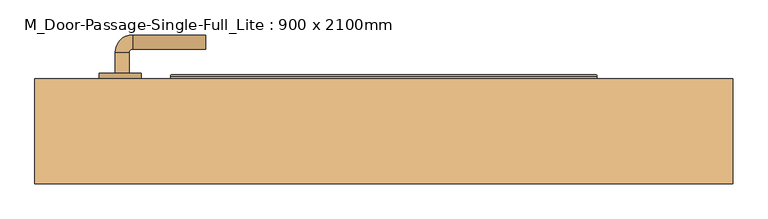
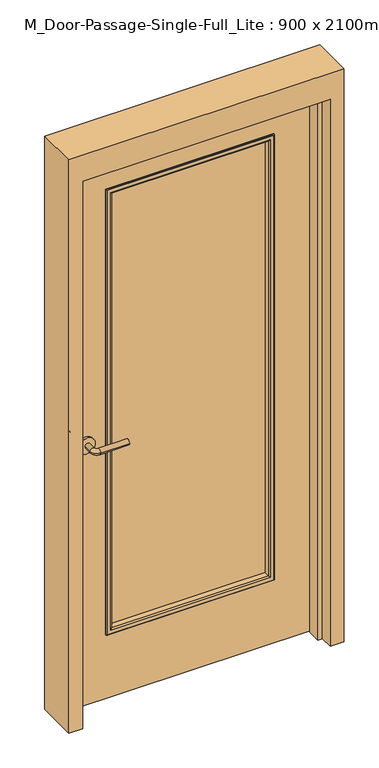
"""IFC4 building model written with IfcOpenShell, lengths in millimetres: door geometry, M_Door-Passage-Single-Full_Lite : 900 x 2100mm."""

from ifc_helpers import new_model, si_unit, point, frame, frame_2d, origin, place, context, project, spatial, polyline, circle_curve, ellipse_curve, trimmed, segment, composite_curve, outline, extrude, faceted_brep, source, transform, mapped, element, save
from ifc_brep_helpers import plane_surface, cylinder_surface, revolved_surface, advanced_brep


def m_door_passage_single_full_lite_900_x_2100mm_2f8a5465(model_context):
    return source(origin(), model_context, "Body", "SolidModel", [
        advanced_brep(
        [(-384.990625, -26.65, 1000.0), (-364.990625, -26.65, 1000.0), (-364.990625, -56.65, 1000.0), (-384.990625, -56.65, 1000.0), (-359.990625, -61.65, 1000.0), (-359.990625, -81.65, 1000.0), (-254.990625, -81.65, 1000.0), (-254.990625, -61.65, 1000.0)],
        [
            (0, 1, circle_curve(frame((-374.990625, -26.65, 1000.0), z_axis=(0.0, 1.0, 0.0), x_axis=(1.0, 0.0, 0.0)), 10.0)),
            (1, 0, circle_curve(frame((-374.990625, -26.65, 1000.0), z_axis=(0.0, 1.0, 0.0), x_axis=(1.0, 0.0, 0.0)), 10.0)),
            (1, 2),
            (2, 3, circle_curve(frame((-374.990625, -56.65, 1000.0), z_axis=(0.0, 1.0, 0.0), x_axis=(1.0, 0.0, 0.0)), 10.0)),
            (3, 0),
            (3, 2, circle_curve(frame((-374.990625, -56.65, 1000.0), z_axis=(0.0, 1.0, 0.0), x_axis=(1.0, 0.0, 0.0)), 10.0)),
            (4, 5, circle_curve(frame((-359.990625, -71.65, 1000.0), z_axis=(-1.0, 0.0, 0.0), x_axis=(0.0, 1.0, 0.0)), 10.0)),
            (5, 3, circle_curve(frame((-359.990625, -56.65, 1000.0), z_axis=(0.0, 0.0, -1.0), x_axis=(-1.0, 0.0, 0.0)), 25.0)),
            (2, 4, circle_curve(frame((-359.990625, -56.65, 1000.0), z_axis=(0.0, 0.0, 1.0), x_axis=(-1.0, 0.0, 0.0)), 5.0)),
            (5, 4, circle_curve(frame((-359.990625, -71.65, 1000.0), z_axis=(-1.0, 0.0, 0.0), x_axis=(0.0, 1.0, 0.0)), 10.0)),
            (6, 7, circle_curve(frame((-254.990625, -71.65, 1000.0), z_axis=(1.0, 0.0, 0.0), x_axis=(0.0, 1.0, 0.0)), 10.0)),
            (7, 6, circle_curve(frame((-254.990625, -71.65, 1000.0), z_axis=(1.0, 0.0, 0.0), x_axis=(0.0, 1.0, 0.0)), 10.0)),
            (4, 7),
            (6, 5),
        ],
        [
            plane_surface(frame((-374.990625, -26.65, 1000.0), z_axis=(0.0, 1.0, 0.0), x_axis=(0.0, 0.0, 1.0))),
            cylinder_surface(frame((-374.990625, -26.65, 1000.0), z_axis=(0.0, 1.0, 0.0), x_axis=(1.0, 0.0, 0.0)), 10.0),
            revolved_surface(trimmed(ellipse_curve(frame((-374.990625, -56.65, 1000.0), z_axis=(0.0, -1.0, 0.0), x_axis=(1.0, 0.0, 0.0)), 10.0, 10.0), [point((-384.990625, -56.65, 1000.0))], [point((-364.990625, -56.65, 1000.0))], True, "CARTESIAN"), (-359.990625, -56.65, 1000.0), (0.0, 0.0, -1.0)),
            revolved_surface(trimmed(ellipse_curve(frame((-374.990625, -56.65, 1000.0), z_axis=(0.0, -1.0, 0.0), x_axis=(1.0, 0.0, 0.0)), 10.0, 10.0), [point((-364.990625, -56.65, 1000.0))], [point((-384.990625, -56.65, 1000.0))], True, "CARTESIAN"), (-359.990625, -56.65, 1000.0), (0.0, 0.0, -1.0)),
            plane_surface(frame((-254.990625, -71.65, 1000.0), z_axis=(1.0, 0.0, 0.0), x_axis=(0.0, 0.0, 1.0))),
            cylinder_surface(frame((-359.990625, -71.65, 1000.0), z_axis=(-1.0, 0.0, 0.0), x_axis=(0.0, 1.0, 0.0)), 10.0),
        ],
        [
            (0, [[1, 2]]),
            (1, [[3, 4, 5, -2]]),
            (1, [[-5, 6, -3, -1]]),
            (2, [[7, 8, -4, 9]]),
            (3, [[10, -9, -6, -8]]),
            (4, [[11, 12]]),
            (5, [[13, -11, 14, -7]]),
            (5, [[-14, -12, -13, -10]]),
        ],
    ),
        extrude(outline(composite_curve([segment(trimmed(circle_curve(frame_2d((1000.0, -377.490625)), 30.0), [point((1000.0, -407.490625))], [point((1000.0, -347.490625))], False, "CARTESIAN"), True, "CONTINUOUS"), segment(trimmed(circle_curve(frame_2d((1000.0, -377.490625)), 30.0), [point((1000.0, -347.490625))], [point((1000.0, -407.490625))], False, "CARTESIAN"), True, "CONTINUOUS")], self_intersect=False)), frame((0.0, -26.65, 0.0), z_axis=(0.0, 1.0, 0.0), x_axis=(0.0, 0.0, 1.0)), (0.0, 0.0, 1.0), 8.0),
        advanced_brep(
        [(-384.990625, 34.35, 1000.0), (-364.990625, 34.35, 1000.0), (-384.990625, 64.35, 1000.0), (-364.990625, 64.35, 1000.0), (-359.990625, 69.35, 1000.0), (-359.990625, 89.35, 1000.0), (-254.990625, 89.35, 1000.0), (-254.990625, 69.35, 1000.0)],
        [
            (0, 1, circle_curve(frame((-374.990625, 34.35, 1000.0), z_axis=(0.0, -1.0, 0.0), x_axis=(1.0, 0.0, 0.0)), 10.0)),
            (1, 0, circle_curve(frame((-374.990625, 34.35, 1000.0), z_axis=(0.0, -1.0, 0.0), x_axis=(1.0, 0.0, 0.0)), 10.0)),
            (0, 2),
            (2, 3, circle_curve(frame((-374.990625, 64.35, 1000.0), z_axis=(0.0, -1.0, 0.0), x_axis=(1.0, 0.0, 0.0)), 10.0)),
            (3, 1),
            (3, 2, circle_curve(frame((-374.990625, 64.35, 1000.0), z_axis=(0.0, -1.0, 0.0), x_axis=(1.0, 0.0, 0.0)), 10.0)),
            (4, 3, circle_curve(frame((-359.990625, 64.35, 1000.0), z_axis=(0.0, 0.0, 1.0), x_axis=(-1.0, 0.0, 0.0)), 5.0)),
            (2, 5, circle_curve(frame((-359.990625, 64.35, 1000.0), z_axis=(0.0, 0.0, -1.0), x_axis=(-1.0, 0.0, 0.0)), 25.0)),
            (5, 4, circle_curve(frame((-359.990625, 79.35, 1000.0), z_axis=(-1.0, 0.0, 0.0), x_axis=(0.0, -1.0, 0.0)), 10.0)),
            (4, 5, circle_curve(frame((-359.990625, 79.35, 1000.0), z_axis=(-1.0, 0.0, 0.0), x_axis=(0.0, -1.0, 0.0)), 10.0)),
            (6, 7, circle_curve(frame((-254.990625, 79.35, 1000.0), z_axis=(1.0, 0.0, 0.0), x_axis=(0.0, -1.0, 0.0)), 10.0)),
            (7, 6, circle_curve(frame((-254.990625, 79.35, 1000.0), z_axis=(1.0, 0.0, 0.0), x_axis=(0.0, -1.0, 0.0)), 10.0)),
            (5, 6),
            (7, 4),
        ],
        [
            plane_surface(frame((-374.990625, 34.35, 1000.0), z_axis=(0.0, -1.0, 0.0), x_axis=(0.0, 0.0, 1.0))),
            cylinder_surface(frame((-374.990625, 34.35, 1000.0), z_axis=(0.0, -1.0, 0.0), x_axis=(1.0, 0.0, 0.0)), 10.0),
            revolved_surface(trimmed(ellipse_curve(frame((-374.990625, 64.35, 1000.0), z_axis=(0.0, -1.0, 0.0), x_axis=(1.0, 0.0, 0.0)), 10.0, 10.0), [point((-384.990625, 64.35, 1000.0))], [point((-364.990625, 64.35, 1000.0))], True, "CARTESIAN"), (-359.990625, 64.35, 1000.0), (0.0, 0.0, -1.0)),
            revolved_surface(trimmed(ellipse_curve(frame((-374.990625, 64.35, 1000.0), z_axis=(0.0, -1.0, 0.0), x_axis=(1.0, 0.0, 0.0)), 10.0, 10.0), [point((-364.990625, 64.35, 1000.0))], [point((-384.990625, 64.35, 1000.0))], True, "CARTESIAN"), (-359.990625, 64.35, 1000.0), (0.0, 0.0, -1.0)),
            plane_surface(frame((-254.990625, 79.35, 1000.0), z_axis=(1.0, 0.0, 0.0), x_axis=(0.0, 0.0, 1.0))),
            cylinder_surface(frame((-359.990625, 79.35, 1000.0), z_axis=(-1.0, 0.0, 0.0), x_axis=(0.0, -1.0, 0.0)), 10.0),
        ],
        [
            (0, [[1, 2]]),
            (1, [[-1, 3, 4, 5]]),
            (1, [[-2, -5, 6, -3]]),
            (2, [[7, -4, 8, 9]]),
            (3, [[-8, -6, -7, 10]]),
            (4, [[11, 12]]),
            (5, [[-9, 13, -12, 14]]),
            (5, [[-10, -14, -11, -13]]),
        ],
    ),
        extrude(outline(composite_curve([segment(trimmed(circle_curve(frame_2d((1000.0, -377.490625)), 30.0), [point((1000.0, -407.490625))], [point((1000.0, -347.490625))], False, "CARTESIAN"), True, "CONTINUOUS"), segment(trimmed(circle_curve(frame_2d((1000.0, -377.490625)), 30.0), [point((1000.0, -347.490625))], [point((1000.0, -407.490625))], False, "CARTESIAN"), True, "CONTINUOUS")], self_intersect=False)), frame((0.0, 26.35, 0.0), z_axis=(0.0, 1.0, 0.0), x_axis=(0.0, 0.0, 1.0)), (0.0, 0.0, 1.0), 8.0),
        extrude(outline(polyline([(297.6, 1.35), (-297.6, 1.35), (-297.6, 6.35), (297.6, 6.35), (297.6, 1.35)])), frame((0.0, 0.0, 254.0), z_axis=(0.0, 0.0, 1.0), x_axis=(1.0, 0.0, 0.0)), (0.0, 0.0, 1.0), 1693.6),
        faceted_brep([(450.0, -23.4125, 0.0), (450.0, 26.35, 0.0), (500.0, 26.35, 0.0), (500.0, -123.65, 0.0), (450.0, -123.65, 0.0), (450.0, -74.4375, 0.0), (434.125, -74.4375, 0.0), (434.125, -23.4125, 0.0), (450.0, -23.4125, 2100.0), (450.0, 26.35, 2100.0), (-450.0, 26.35, 2100.0), (-450.0, 26.35, 0.0), (-500.0, 26.35, 0.0), (-500.0, 26.35, 2200.0), (500.0, 26.35, 2200.0), (500.0, -123.65, 2200.0), (-500.0, -123.65, 2200.0), (-500.0, -123.65, 0.0), (-450.0, -123.65, 0.0), (-450.0, -123.65, 2100.0), (450.0, -123.65, 2100.0), (450.0, -74.4375, 2100.0), (-450.0, -74.4375, 2100.0), (-450.0, -74.4375, 0.0), (-434.125, -74.4375, 0.0), (-434.125, -74.4375, 2084.125), (434.125, -74.4375, 2084.125), (434.125, -23.4125, 2084.125), (-434.125, -23.4125, 2084.125), (-434.125, -23.4125, 0.0), (-450.0, -23.4125, 0.0), (-450.0, -23.4125, 2100.0)], [[[0, 1, 2, 3, 4, 5, 6, 7]], [[1, 0, 8, 9]], [[2, 1, 9, 10, 11, 12, 13, 14]], [[3, 2, 14, 15]], [[4, 3, 15, 16, 17, 18, 19, 20]], [[5, 4, 20, 21]], [[6, 5, 21, 22, 23, 24, 25, 26]], [[7, 6, 26, 27]], [[0, 7, 27, 28, 29, 30, 31, 8]], [[9, 8, 31, 10]], [[20, 19, 22, 21]], [[26, 25, 28, 27]], [[12, 11, 30, 29, 24, 23, 18, 17]], [[11, 10, 31, 30]], [[13, 12, 17, 16]], [[19, 18, 23, 22]], [[25, 24, 29, 28]], [[15, 14, 13, 16]]]),
        extrude(outline(polyline([(2100.0, -450.0), (0.0, -450.0), (0.0, 450.0), (2100.0, 450.0), (2100.0, -450.0)]), holes=[polyline([(1947.6, -297.6), (1947.6, 297.6), (254.0, 297.6), (254.0, -297.6), (1947.6, -297.6)])]), frame((0.0, -18.65, 0.0), z_axis=(0.0, 1.0, 0.0), x_axis=(0.0, 0.0, 1.0)), (0.0, 0.0, 1.0), 45.0),
        advanced_brep(
        [(-297.6, 6.35, 1947.6), (-297.6, 26.35, 1947.6), (-297.6, 26.35, 254.0), (-297.6, 6.35, 254.0), (-285.6, 27.35, 1935.6), (-285.6, 6.35, 1935.6), (-285.6, 6.35, 266.0), (-285.6, 27.35, 266.0), (-290.6, 32.35, 1940.6), (-290.6, 32.35, 261.0), (-305.6, 30.35, 1955.6), (-303.6, 32.35, 1953.6), (-303.6, 32.35, 248.0), (-305.6, 30.35, 246.0), (-305.6, 26.35, 1955.6), (-305.6, 26.35, 246.0), (297.6, 26.35, 254.0), (297.6, 6.35, 254.0), (285.6, 6.35, 266.0), (285.6, 27.35, 266.0), (290.6, 32.35, 261.0), (303.6, 32.35, 248.0), (305.6, 30.35, 246.0), (305.6, 26.35, 246.0), (297.6, 26.35, 1947.6), (297.6, 6.35, 1947.6), (285.6, 6.35, 1935.6), (285.6, 27.35, 1935.6), (290.6, 32.35, 1940.6), (303.6, 32.35, 1953.6), (305.6, 30.35, 1955.6), (305.6, 26.35, 1955.6)],
        [
            (0, 1),
            (1, 2),
            (2, 3),
            (3, 0),
            (4, 5),
            (5, 6),
            (6, 7),
            (7, 4),
            (8, 4, ellipse_curve(frame((-290.6, 27.35, 1940.6), z_axis=(-0.7071067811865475, 0.0, -0.7071067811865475), x_axis=(-0.7071067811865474, 0.0, 0.7071067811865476)), 7.0710678, 5.0)),
            (7, 9, ellipse_curve(frame((-290.6, 27.35, 261.0), z_axis=(-0.7071067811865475, 0.0, 0.7071067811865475), x_axis=(0.7071067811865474, 0.0, 0.7071067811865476)), 7.0710678, 5.0)),
            (9, 8),
            (10, 11, ellipse_curve(frame((-303.6, 30.35, 1953.6), z_axis=(-0.7071067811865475, 0.0, -0.7071067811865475), x_axis=(-0.7071067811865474, 0.0, 0.7071067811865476)), 2.8284271, 2.0)),
            (11, 12),
            (12, 13, ellipse_curve(frame((-303.6, 30.35, 248.0), z_axis=(-0.7071067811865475, 0.0, 0.7071067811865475), x_axis=(0.7071067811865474, 0.0, 0.7071067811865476)), 2.8284271, 2.0)),
            (13, 10),
            (14, 10),
            (13, 15),
            (15, 14),
            (2, 16),
            (16, 17),
            (17, 3),
            (6, 18),
            (18, 19),
            (19, 7),
            (19, 20, ellipse_curve(frame((290.6, 27.35, 261.0), z_axis=(-0.7071067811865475, 0.0, -0.7071067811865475), x_axis=(-0.7071067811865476, 0.0, 0.7071067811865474)), 7.0710678, 5.0)),
            (20, 9),
            (12, 21),
            (21, 22, ellipse_curve(frame((303.6, 30.35, 248.0), z_axis=(-0.7071067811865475, 0.0, -0.7071067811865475), x_axis=(-0.7071067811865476, 0.0, 0.7071067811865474)), 2.8284271, 2.0)),
            (22, 13),
            (22, 23),
            (23, 15),
            (16, 24),
            (24, 25),
            (25, 17),
            (18, 26),
            (26, 27),
            (27, 19),
            (27, 28, ellipse_curve(frame((290.6, 27.35, 1940.6), z_axis=(0.7071067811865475, 0.0, -0.7071067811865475), x_axis=(-0.7071067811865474, 0.0, -0.7071067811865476)), 7.0710678, 5.0)),
            (28, 20),
            (21, 29),
            (29, 30, ellipse_curve(frame((303.6, 30.35, 1953.6), z_axis=(0.7071067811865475, 0.0, -0.7071067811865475), x_axis=(-0.7071067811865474, 0.0, -0.7071067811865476)), 2.8284271, 2.0)),
            (30, 22),
            (30, 31),
            (31, 23),
            (31, 14),
            (1, 24),
            (0, 25),
            (5, 26),
            (4, 27),
            (8, 28),
            (11, 29),
            (10, 30),
        ],
        [
            plane_surface(frame((-297.6, 26.35, 1947.6), z_axis=(-1.0, 0.0, 0.0), x_axis=(0.0, 0.0, -1.0))),
            plane_surface(frame((-285.6, 6.35, 1935.6), z_axis=(1.0, 0.0, 0.0), x_axis=(0.0, 0.0, -1.0))),
            cylinder_surface(frame((-290.6, 27.35, 1947.6), z_axis=(0.0, 0.0, 1.0), x_axis=(-1.0, 0.0, 0.0)), 5.0),
            cylinder_surface(frame((-303.6, 30.35, 1947.6), z_axis=(0.0, 0.0, 1.0), x_axis=(-1.0, 0.0, 0.0)), 2.0),
            plane_surface(frame((-305.6, 30.35, 1955.6), z_axis=(-1.0, 0.0, 0.0), x_axis=(0.0, 0.0, -1.0))),
            plane_surface(frame((-297.6, 26.35, 254.0), z_axis=(0.0, 0.0, -1.0), x_axis=(1.0, 0.0, 0.0))),
            plane_surface(frame((-285.6, 6.35, 266.0), z_axis=(0.0, 0.0, 1.0), x_axis=(1.0, 0.0, 0.0))),
            cylinder_surface(frame((-297.6, 27.35, 261.0), z_axis=(-1.0, 0.0, 0.0), x_axis=(0.0, 0.0, -1.0)), 5.0),
            cylinder_surface(frame((-297.6, 30.35, 248.0), z_axis=(-1.0, 0.0, 0.0), x_axis=(0.0, 0.0, -1.0)), 2.0),
            plane_surface(frame((-305.6, 30.35, 246.0), z_axis=(0.0, 0.0, -1.0), x_axis=(1.0, 0.0, 0.0))),
            plane_surface(frame((297.6, 26.35, 254.0), z_axis=(1.0, 0.0, 0.0), x_axis=(0.0, 0.0, 1.0))),
            plane_surface(frame((285.6, 6.35, 266.0), z_axis=(-1.0, 0.0, 0.0), x_axis=(0.0, 0.0, 1.0))),
            cylinder_surface(frame((290.6, 27.35, 254.0), z_axis=(0.0, 0.0, -1.0), x_axis=(1.0, 0.0, 0.0)), 5.0),
            cylinder_surface(frame((303.6, 30.35, 254.0), z_axis=(0.0, 0.0, -1.0), x_axis=(1.0, 0.0, 0.0)), 2.0),
            plane_surface(frame((305.6, 30.35, 246.0), z_axis=(1.0, 0.0, 0.0), x_axis=(0.0, 0.0, 1.0))),
            plane_surface(frame((305.6, 26.35, 1955.6), z_axis=(0.0, -1.0, 0.0), x_axis=(-1.0, 0.0, 0.0))),
            plane_surface(frame((297.6, 26.35, 1947.6), z_axis=(0.0, 0.0, 1.0), x_axis=(-1.0, 0.0, 0.0))),
            plane_surface(frame((297.6, 6.35, 1947.6), z_axis=(0.0, -1.0, 0.0), x_axis=(-1.0, 0.0, 0.0))),
            plane_surface(frame((285.6, 6.35, 1935.6), z_axis=(0.0, 0.0, -1.0), x_axis=(-1.0, 0.0, 0.0))),
            cylinder_surface(frame((297.6, 27.35, 1940.6), z_axis=(1.0, 0.0, 0.0), x_axis=(0.0, 0.0, 1.0)), 5.0),
            plane_surface(frame((290.6, 32.35, 1940.6), z_axis=(0.0, 1.0, 0.0), x_axis=(-1.0, 0.0, 0.0))),
            cylinder_surface(frame((297.6, 30.35, 1953.6), z_axis=(1.0, 0.0, 0.0), x_axis=(0.0, 0.0, 1.0)), 2.0),
            plane_surface(frame((305.6, 30.35, 1955.6), z_axis=(0.0, 0.0, 1.0), x_axis=(-1.0, 0.0, 0.0))),
        ],
        [
            (0, [[1, 2, 3, 4]]),
            (1, [[5, 6, 7, 8]]),
            (2, [[9, -8, 10, 11]]),
            (3, [[12, 13, 14, 15]]),
            (4, [[16, -15, 17, 18]]),
            (5, [[-3, 19, 20, 21]]),
            (6, [[-7, 22, 23, 24]]),
            (7, [[-10, -24, 25, 26]]),
            (8, [[-14, 27, 28, 29]]),
            (9, [[-17, -29, 30, 31]]),
            (10, [[-20, 32, 33, 34]]),
            (11, [[-23, 35, 36, 37]]),
            (12, [[-25, -37, 38, 39]]),
            (13, [[-28, 40, 41, 42]]),
            (14, [[-30, -42, 43, 44]]),
            (15, [[-31, -44, 45, -18], [46, -32, -19, -2]]),
            (16, [[-33, -46, -1, 47]]),
            (17, [[-21, -34, -47, -4], [48, -35, -22, -6]]),
            (18, [[-36, -48, -5, 49]]),
            (19, [[-38, -49, -9, 50]]),
            (20, [[51, -40, -27, -13], [-26, -39, -50, -11]]),
            (21, [[-41, -51, -12, 52]]),
            (22, [[-43, -52, -16, -45]]),
        ],
    ),
        advanced_brep(
        [(-297.6, 1.35, 254.0), (-297.6, -18.65, 254.0), (-297.6, -18.65, 1947.6), (-297.6, 1.35, 1947.6), (-285.6, -19.65, 266.0), (-285.6, 1.35, 266.0), (-285.6, 1.35, 1935.6), (-285.6, -19.65, 1935.6), (-290.6, -24.65, 261.0), (-290.6, -24.65, 1940.6), (-305.6, -22.65, 246.0), (-303.6, -24.65, 248.0), (-303.6, -24.65, 1953.6), (-305.6, -22.65, 1955.6), (-305.6, -18.65, 246.0), (-305.6, -18.65, 1955.6), (297.6, -18.65, 1947.6), (297.6, 1.35, 1947.6), (285.6, 1.35, 1935.6), (285.6, -19.65, 1935.6), (290.6, -24.65, 1940.6), (303.6, -24.65, 1953.6), (305.6, -22.65, 1955.6), (305.6, -18.65, 1955.6), (297.6, -18.65, 254.0), (297.6, 1.35, 254.0), (285.6, 1.35, 266.0), (285.6, -19.65, 266.0), (290.6, -24.65, 261.0), (303.6, -24.65, 248.0), (305.6, -22.65, 246.0), (305.6, -18.65, 246.0)],
        [
            (0, 1),
            (1, 2),
            (2, 3),
            (3, 0),
            (4, 5),
            (5, 6),
            (6, 7),
            (7, 4),
            (8, 4, ellipse_curve(frame((-290.6, -19.65, 261.0), z_axis=(-0.7071067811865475, 0.0, 0.7071067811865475), x_axis=(-0.7071067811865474, 0.0, -0.7071067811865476)), 7.0710678, 5.0)),
            (7, 9, ellipse_curve(frame((-290.6, -19.65, 1940.6), z_axis=(-0.7071067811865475, 0.0, -0.7071067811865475), x_axis=(0.7071067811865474, 0.0, -0.7071067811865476)), 7.0710678, 5.0)),
            (9, 8),
            (10, 11, ellipse_curve(frame((-303.6, -22.65, 248.0), z_axis=(-0.7071067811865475, 0.0, 0.7071067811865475), x_axis=(-0.7071067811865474, 0.0, -0.7071067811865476)), 2.8284271, 2.0)),
            (11, 12),
            (12, 13, ellipse_curve(frame((-303.6, -22.65, 1953.6), z_axis=(-0.7071067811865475, 0.0, -0.7071067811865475), x_axis=(0.7071067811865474, 0.0, -0.7071067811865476)), 2.8284271, 2.0)),
            (13, 10),
            (14, 10),
            (13, 15),
            (15, 14),
            (2, 16),
            (16, 17),
            (17, 3),
            (6, 18),
            (18, 19),
            (19, 7),
            (19, 20, ellipse_curve(frame((290.6, -19.65, 1940.6), z_axis=(-0.7071067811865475, 0.0, 0.7071067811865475), x_axis=(-0.7071067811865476, 0.0, -0.7071067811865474)), 7.0710678, 5.0)),
            (20, 9),
            (12, 21),
            (21, 22, ellipse_curve(frame((303.6, -22.65, 1953.6), z_axis=(-0.7071067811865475, 0.0, 0.7071067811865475), x_axis=(-0.7071067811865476, 0.0, -0.7071067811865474)), 2.8284271, 2.0)),
            (22, 13),
            (22, 23),
            (23, 15),
            (16, 24),
            (24, 25),
            (25, 17),
            (18, 26),
            (26, 27),
            (27, 19),
            (27, 28, ellipse_curve(frame((290.6, -19.65, 261.0), z_axis=(0.7071067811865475, 0.0, 0.7071067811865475), x_axis=(-0.7071067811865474, 0.0, 0.7071067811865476)), 7.0710678, 5.0)),
            (28, 20),
            (21, 29),
            (29, 30, ellipse_curve(frame((303.6, -22.65, 248.0), z_axis=(0.7071067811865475, 0.0, 0.7071067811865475), x_axis=(-0.7071067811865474, 0.0, 0.7071067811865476)), 2.8284271, 2.0)),
            (30, 22),
            (30, 31),
            (31, 23),
            (31, 14),
            (1, 24),
            (0, 25),
            (5, 26),
            (4, 27),
            (8, 28),
            (11, 29),
            (10, 30),
        ],
        [
            plane_surface(frame((-297.6, -18.65, 254.0), z_axis=(-1.0, 0.0, 0.0), x_axis=(0.0, 0.0, 1.0))),
            plane_surface(frame((-285.6, 1.35, 266.0), z_axis=(1.0, 0.0, 0.0), x_axis=(0.0, 0.0, 1.0))),
            cylinder_surface(frame((-290.6, -19.65, 254.0), z_axis=(0.0, 0.0, -1.0), x_axis=(-1.0, 0.0, 0.0)), 5.0),
            cylinder_surface(frame((-303.6, -22.65, 254.0), z_axis=(0.0, 0.0, -1.0), x_axis=(-1.0, 0.0, 0.0)), 2.0),
            plane_surface(frame((-305.6, -22.65, 246.0), z_axis=(-1.0, 0.0, 0.0), x_axis=(0.0, 0.0, 1.0))),
            plane_surface(frame((-297.6, -18.65, 1947.6), z_axis=(0.0, 0.0, 1.0), x_axis=(1.0, 0.0, 0.0))),
            plane_surface(frame((-285.6, 1.35, 1935.6), z_axis=(0.0, 0.0, -1.0), x_axis=(1.0, 0.0, 0.0))),
            cylinder_surface(frame((-297.6, -19.65, 1940.6), z_axis=(-1.0, 0.0, 0.0), x_axis=(0.0, 0.0, 1.0)), 5.0),
            cylinder_surface(frame((-297.6, -22.65, 1953.6), z_axis=(-1.0, 0.0, 0.0), x_axis=(0.0, 0.0, 1.0)), 2.0),
            plane_surface(frame((-305.6, -22.65, 1955.6), z_axis=(0.0, 0.0, 1.0), x_axis=(1.0, 0.0, 0.0))),
            plane_surface(frame((297.6, -18.65, 1947.6), z_axis=(1.0, 0.0, 0.0), x_axis=(0.0, 0.0, -1.0))),
            plane_surface(frame((285.6, 1.35, 1935.6), z_axis=(-1.0, 0.0, 0.0), x_axis=(0.0, 0.0, -1.0))),
            cylinder_surface(frame((290.6, -19.65, 1947.6), z_axis=(0.0, 0.0, 1.0), x_axis=(1.0, 0.0, 0.0)), 5.0),
            cylinder_surface(frame((303.6, -22.65, 1947.6), z_axis=(0.0, 0.0, 1.0), x_axis=(1.0, 0.0, 0.0)), 2.0),
            plane_surface(frame((305.6, -22.65, 1955.6), z_axis=(1.0, 0.0, 0.0), x_axis=(0.0, 0.0, -1.0))),
            plane_surface(frame((305.6, -18.65, 246.0), z_axis=(0.0, 1.0, 0.0), x_axis=(-1.0, 0.0, 0.0))),
            plane_surface(frame((297.6, -18.65, 254.0), z_axis=(0.0, 0.0, -1.0), x_axis=(-1.0, 0.0, 0.0))),
            plane_surface(frame((297.6, 1.35, 254.0), z_axis=(0.0, 1.0, 0.0), x_axis=(-1.0, 0.0, 0.0))),
            plane_surface(frame((285.6, 1.35, 266.0), z_axis=(0.0, 0.0, 1.0), x_axis=(-1.0, 0.0, 0.0))),
            cylinder_surface(frame((297.6, -19.65, 261.0), z_axis=(1.0, 0.0, 0.0), x_axis=(0.0, 0.0, -1.0)), 5.0),
            plane_surface(frame((290.6, -24.65, 261.0), z_axis=(0.0, -1.0, 0.0), x_axis=(-1.0, 0.0, 0.0))),
            cylinder_surface(frame((297.6, -22.65, 248.0), z_axis=(1.0, 0.0, 0.0), x_axis=(0.0, 0.0, -1.0)), 2.0),
            plane_surface(frame((305.6, -22.65, 246.0), z_axis=(0.0, 0.0, -1.0), x_axis=(-1.0, 0.0, 0.0))),
        ],
        [
            (0, [[1, 2, 3, 4]]),
            (1, [[5, 6, 7, 8]]),
            (2, [[9, -8, 10, 11]]),
            (3, [[12, 13, 14, 15]]),
            (4, [[16, -15, 17, 18]]),
            (5, [[-3, 19, 20, 21]]),
            (6, [[-7, 22, 23, 24]]),
            (7, [[-10, -24, 25, 26]]),
            (8, [[-14, 27, 28, 29]]),
            (9, [[-17, -29, 30, 31]]),
            (10, [[-20, 32, 33, 34]]),
            (11, [[-23, 35, 36, 37]]),
            (12, [[-25, -37, 38, 39]]),
            (13, [[-28, 40, 41, 42]]),
            (14, [[-30, -42, 43, 44]]),
            (15, [[-31, -44, 45, -18], [46, -32, -19, -2]]),
            (16, [[-33, -46, -1, 47]]),
            (17, [[-21, -34, -47, -4], [48, -35, -22, -6]]),
            (18, [[-36, -48, -5, 49]]),
            (19, [[-38, -49, -9, 50]]),
            (20, [[51, -40, -27, -13], [-26, -39, -50, -11]]),
            (21, [[-41, -51, -12, 52]]),
            (22, [[-43, -52, -16, -45]]),
        ],
    ),
    ])


if __name__ == "__main__":
    model = new_model("IFC4")
    model_context = context("Model", 3, world=origin())
    ifc_project = project(units=[si_unit("LENGTHUNIT", "METRE", prefix="MILLI")], contexts=[model_context])
    site = spatial("IfcSite", under=ifc_project)
    building = spatial("IfcBuilding", under=site)
    placement = place(None, origin())
    m_door_passage_single_full_lite_900_x_2100mm_shape = m_door_passage_single_full_lite_900_x_2100mm_2f8a5465(model_context)
    element("IfcDoor", 1, ObjectType="M_Door-Passage-Single-Full_Lite : 900 x 2100mm", at=placement, inside=building, context=model_context, shape_type="MappedRepresentation", body=[
        mapped(m_door_passage_single_full_lite_900_x_2100mm_shape, transform((0.0, 0.0, 0.0), x_axis=(1.0, 0.0, 0.0), y_axis=(0.0, 1.0, 0.0), z_axis=(0.0, 0.0, 1.0))),
    ])
    save(model, "model.ifc")
